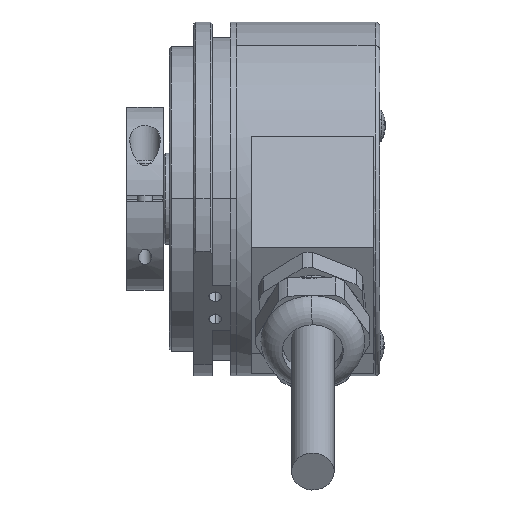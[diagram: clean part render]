
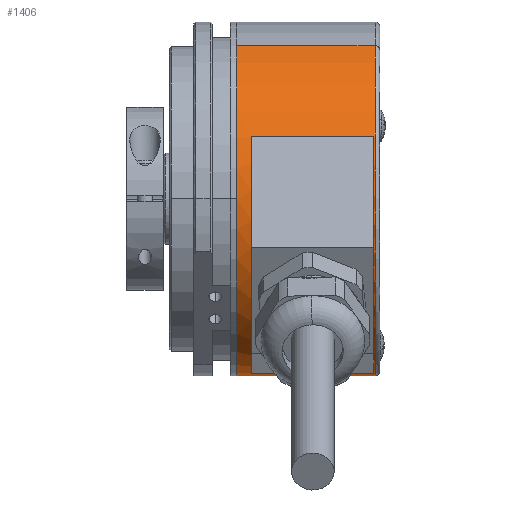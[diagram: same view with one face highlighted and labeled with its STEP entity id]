
A CAD part, top view. The second image highlights one B-rep face of the part: STEP entity #1406.
In plain terms, the highlighted cylindrical face has radius 29 mm (diameter 58 mm), a partial arc.
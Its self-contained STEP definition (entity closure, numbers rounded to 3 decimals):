
#1096 = VERTEX_POINT ( 'NONE', #7201 ) ;
#1315 = VERTEX_POINT ( 'NONE', #7733 ) ;
#1316 = ORIENTED_EDGE ( 'NONE', *, *, #1317, .F. ) ;
#1317 = EDGE_CURVE ( 'NONE', #1318, #1315, #7732, .T. ) ;
#1318 = VERTEX_POINT ( 'NONE', #7727 ) ;
#1319 = ORIENTED_EDGE ( 'NONE', *, *, #1320, .F. ) ;
#1320 = EDGE_CURVE ( 'NONE', #1414, #1318, #7726, .T. ) ;
#1322 = EDGE_CURVE ( 'NONE', #1516, #1515, #7721, .T. ) ;
#1323 = ORIENTED_EDGE ( 'NONE', *, *, #1405, .T. ) ;
#1324 = ORIENTED_EDGE ( 'NONE', *, *, #1325, .T. ) ;
#1325 = EDGE_CURVE ( 'NONE', #1096, #1587, #7669, .T. ) ;
#1326 = EDGE_LOOP ( 'NONE', ( #1412, #1416, #1316, #1319 ) ) ;
#1405 = EDGE_CURVE ( 'NONE', #1515, #1096, #7996, .T. ) ;
#1406 = ADVANCED_FACE ( 'NONE', ( #7992, #7991 ), #7990, .T. ) ;
#1407 = ORIENTED_EDGE ( 'NONE', *, *, #1553, .F. ) ;
#1408 = ORIENTED_EDGE ( 'NONE', *, *, #1322, .T. ) ;
#1412 = ORIENTED_EDGE ( 'NONE', *, *, #1413, .T. ) ;
#1413 = EDGE_CURVE ( 'NONE', #1414, #1415, #7977, .T. ) ;
#1414 = VERTEX_POINT ( 'NONE', #7969 ) ;
#1415 = VERTEX_POINT ( 'NONE', #7968 ) ;
#1416 = ORIENTED_EDGE ( 'NONE', *, *, #1417, .T. ) ;
#1417 = EDGE_CURVE ( 'NONE', #1415, #1315, #7798, .T. ) ;
#1515 = VERTEX_POINT ( 'NONE', #8157 ) ;
#1516 = VERTEX_POINT ( 'NONE', #8156 ) ;
#1553 = EDGE_CURVE ( 'NONE', #1516, #1587, #8153, .T. ) ;
#1556 = EDGE_LOOP ( 'NONE', ( #1407, #1408, #1323, #1324 ) ) ;
#1587 = VERTEX_POINT ( 'NONE', #8064 ) ;
#7201 = CARTESIAN_POINT ( 'NONE',  ( 33.7, -25.115, -14.5 ) ) ;
#7666 = DIRECTION ( 'NONE',  ( 0., 0.866, 0.5 ) ) ;
#7667 = DIRECTION ( 'NONE',  ( -1., 0., 0. ) ) ;
#7668 = AXIS2_PLACEMENT_3D ( 'NONE', #7674, #7667, #7666 ) ;
#7669 = CIRCLE ( 'NONE', #7668, 29. ) ;
#7670 = DIRECTION ( 'NONE',  ( 0., -0.866, -0.5 ) ) ;
#7671 = DIRECTION ( 'NONE',  ( 1., 0., 0. ) ) ;
#7672 = CARTESIAN_POINT ( 'NONE',  ( 11., 0., 0. ) ) ;
#7673 = AXIS2_PLACEMENT_3D ( 'NONE', #7672, #7671, #7670 ) ;
#7674 = CARTESIAN_POINT ( 'NONE',  ( 33.7, 0., 0. ) ) ;
#7721 = CIRCLE ( 'NONE', #7673, 29. ) ;
#7723 = DIRECTION ( 'NONE',  ( 1., 0., 0. ) ) ;
#7724 = VECTOR ( 'NONE', #7723, 1000. ) ;
#7725 = CARTESIAN_POINT ( 'NONE',  ( 13.5, -28.602, 4.786 ) ) ;
#7726 = LINE ( 'NONE', #7725, #7724 ) ;
#7727 = CARTESIAN_POINT ( 'NONE',  ( 33.5, -28.602, 4.786 ) ) ;
#7728 = DIRECTION ( 'NONE',  ( 0., -0.866, -0.5 ) ) ;
#7729 = DIRECTION ( 'NONE',  ( -1., 0., 0. ) ) ;
#7730 = CARTESIAN_POINT ( 'NONE',  ( 33.5, 0., 0. ) ) ;
#7731 = AXIS2_PLACEMENT_3D ( 'NONE', #7730, #7729, #7728 ) ;
#7732 = CIRCLE ( 'NONE', #7731, 29. ) ;
#7733 = CARTESIAN_POINT ( 'NONE',  ( 33.5, 10.156, 27.163 ) ) ;
#7795 = DIRECTION ( 'NONE',  ( 1., 0., 0. ) ) ;
#7796 = VECTOR ( 'NONE', #7795, 1000. ) ;
#7797 = CARTESIAN_POINT ( 'NONE',  ( 13.5, 10.156, 27.163 ) ) ;
#7798 = LINE ( 'NONE', #7797, #7796 ) ;
#7968 = CARTESIAN_POINT ( 'NONE',  ( 13.5, 10.156, 27.163 ) ) ;
#7969 = CARTESIAN_POINT ( 'NONE',  ( 13.5, -28.602, 4.786 ) ) ;
#7970 = DIRECTION ( 'NONE',  ( 0., -0.866, -0.5 ) ) ;
#7971 = DIRECTION ( 'NONE',  ( -1., 0., 0. ) ) ;
#7972 = CARTESIAN_POINT ( 'NONE',  ( 13.5, 0., 0. ) ) ;
#7973 = AXIS2_PLACEMENT_3D ( 'NONE', #7972, #7971, #7970 ) ;
#7977 = CIRCLE ( 'NONE', #7973, 29. ) ;
#7986 = DIRECTION ( 'NONE',  ( 0., -0.866, -0.5 ) ) ;
#7987 = DIRECTION ( 'NONE',  ( 1., 0., 0. ) ) ;
#7988 = CARTESIAN_POINT ( 'NONE',  ( 34.5, 0., 0. ) ) ;
#7989 = AXIS2_PLACEMENT_3D ( 'NONE', #7988, #7987, #7986 ) ;
#7990 = CYLINDRICAL_SURFACE ( 'NONE', #7989, 29. ) ;
#7991 = FACE_BOUND ( 'NONE', #1326, .T. ) ;
#7992 = FACE_OUTER_BOUND ( 'NONE', #1556, .T. ) ;
#7993 = DIRECTION ( 'NONE',  ( 1., 0., 0. ) ) ;
#7994 = VECTOR ( 'NONE', #7993, 1000. ) ;
#7995 = CARTESIAN_POINT ( 'NONE',  ( 34.5, -25.115, -14.5 ) ) ;
#7996 = LINE ( 'NONE', #7995, #7994 ) ;
#8064 = CARTESIAN_POINT ( 'NONE',  ( 33.7, 25.115, 14.5 ) ) ;
#8150 = DIRECTION ( 'NONE',  ( 1., 0., 0. ) ) ;
#8151 = VECTOR ( 'NONE', #8150, 1000. ) ;
#8152 = CARTESIAN_POINT ( 'NONE',  ( 34.5, 25.115, 14.5 ) ) ;
#8153 = LINE ( 'NONE', #8152, #8151 ) ;
#8156 = CARTESIAN_POINT ( 'NONE',  ( 11., 25.115, 14.5 ) ) ;
#8157 = CARTESIAN_POINT ( 'NONE',  ( 11., -25.115, -14.5 ) ) ;
